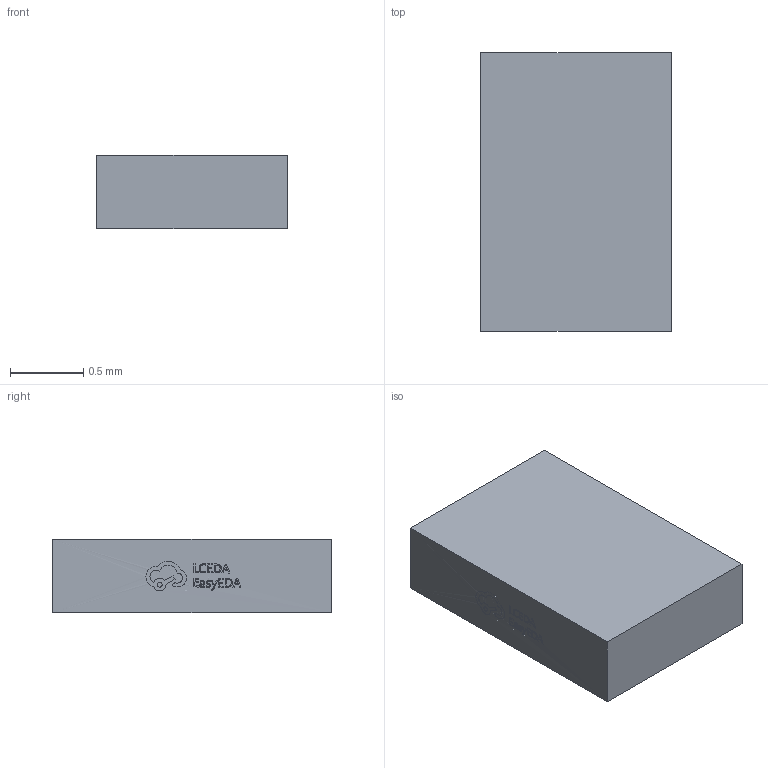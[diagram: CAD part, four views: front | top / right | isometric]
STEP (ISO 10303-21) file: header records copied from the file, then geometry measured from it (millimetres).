
FILE_DESCRIPTION(/* description */ ('STEP AP242 Edition 2','CAx-IF Rec.Pracs.---Representation and Presentation of Product Manufacturing Information (PMI)---4.0---2014-10-13','CAx-IF Rec.Pracs.---3D Tessellated Geometry---0.4---2014-09-14','2;1','CAx-IF Rec.Pracs.---User Defined Attributes---1.5---2016-08-15'),/* implementation_level */ '2;1');
FILE_NAME(/* name */ 'Assembly 1 - R0805~R0805_L2.0-W1.3-H0.6~nxQB_5',/* time_stamp */ '2026-04-02T09:55:19Z',/* author */ (''),/* organization */ (''),/* preprocessor_version */ 'ST-DEVELOPER v20',/* originating_system */ 'ONSHAPE BY PTC INC, 1.212',/* authorisation */ ' ');
FILE_SCHEMA (('AP242_MANAGED_MODEL_BASED_3D_ENGINEERING_MIM_LF { 1 0 10303 442 3 1 4 }'));
Length unit declared in the file: metre
Products named in the file (1): R0805~R0805_L2.0-W1.3-H0.6~nxQB_5
Bounding box: 1.3 x 1.9 x 0.5 mm (x, y, z)
Volume: 1.2 mm3; surface area: 8.1 mm2
Topology: 1 solids, 1 shells, 230 faces, 604 edges, 395 vertices
Faces by surface type: plane 135, cylinder 65, bspline 30
Entity records: 8804 total; most frequent: CARTESIAN_POINT 1737, ORIENTED_EDGE 1208, DIRECTION 1039, EDGE_CURVE 604, VERTEX_POINT 395, LINE 373, VECTOR 373, AXIS2_PLACEMENT_3D 333
